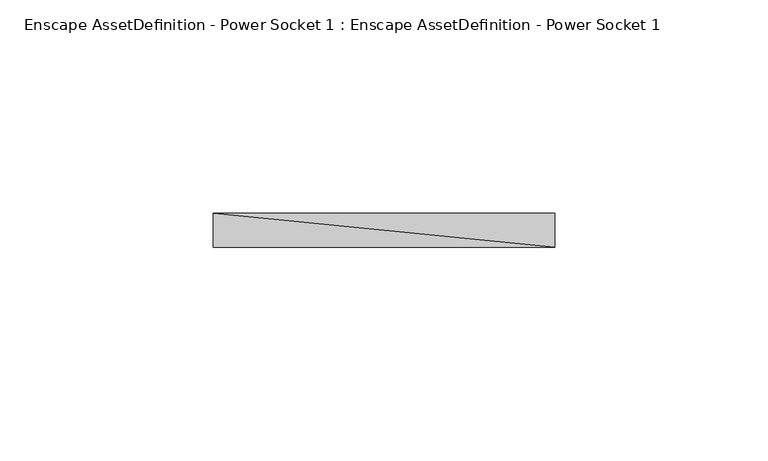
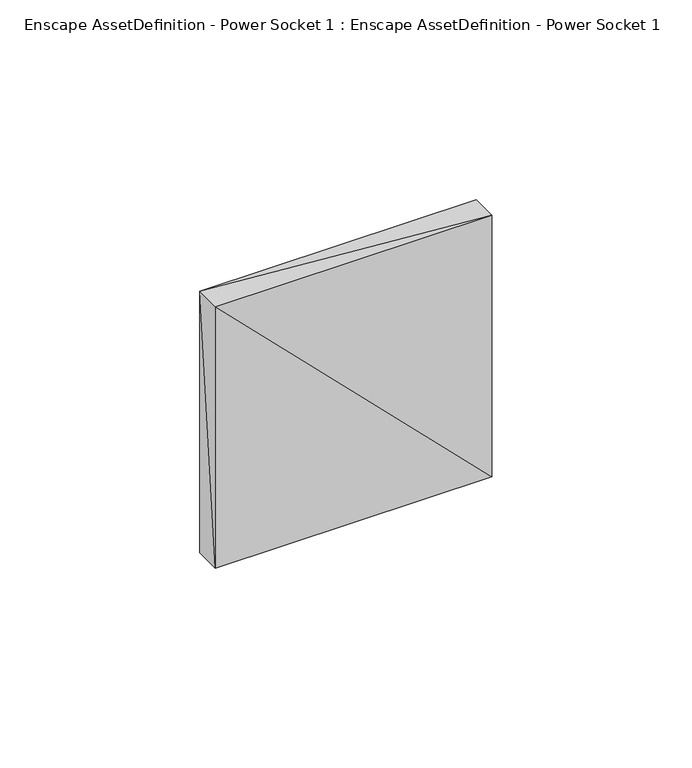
"""IFC4 building model written with IfcOpenShell, lengths in millimetres: geographic element geometry, Enscape AssetDefinition - Power Socket 1 : Enscape AssetDefinition - Power Socket 1."""

from ifc_helpers import new_model, si_unit, origin, place, context, project, spatial, faceted_brep, source, transform, mapped, element, save


def enscape_assetdefinition_power_socket_1_enscape_57b8c8f3(model_context):
    return source(origin(), model_context, "Body", "Brep", [
        faceted_brep([(-39.9999991, 0.0, 39.9999991), (-39.9999991, -8.0000004, 39.9999991), (39.9999991, -8.0000004, 39.9999991), (39.9999991, 0.0, 39.9999991), (-39.9999991, -8.0000004, -39.9999991), (-39.9999991, 0.0, -39.9999991), (39.9999991, -8.0000004, -39.9999991), (39.9999991, 0.0, -39.9999991)], [[[0, 1, 2]], [[0, 2, 3]], [[4, 1, 0]], [[4, 0, 5]], [[6, 2, 1]], [[6, 1, 4]], [[7, 3, 2]], [[7, 2, 6]], [[5, 0, 3]], [[5, 3, 7]], [[6, 4, 5]], [[7, 6, 5]]]),
    ])


if __name__ == "__main__":
    model = new_model("IFC4")
    model_context = context("Model", 3, world=origin())
    ifc_project = project(units=[si_unit("LENGTHUNIT", "METRE", prefix="MILLI")], contexts=[model_context])
    site = spatial("IfcSite", under=ifc_project)
    building = spatial("IfcBuilding", under=site)
    placement = place(None, origin())
    enscape_assetdefinition_power_socket_1_enscape_shape = enscape_assetdefinition_power_socket_1_enscape_57b8c8f3(model_context)
    element("IfcGeographicElement", 1, ObjectType="Enscape AssetDefinition - Power Socket 1 : Enscape AssetDefinition - Power Socket 1", at=placement, inside=building, context=model_context, shape_type="MappedRepresentation", body=[
        mapped(enscape_assetdefinition_power_socket_1_enscape_shape, transform((0.0, 0.0, 0.0), x_axis=(1.0, 0.0, 0.0), y_axis=(0.0, 1.0, 0.0), z_axis=(0.0, 0.0, 1.0))),
    ])
    save(model, "model.ifc")
